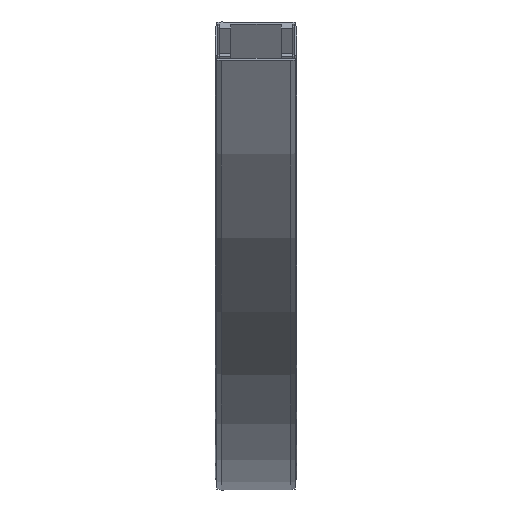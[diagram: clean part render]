
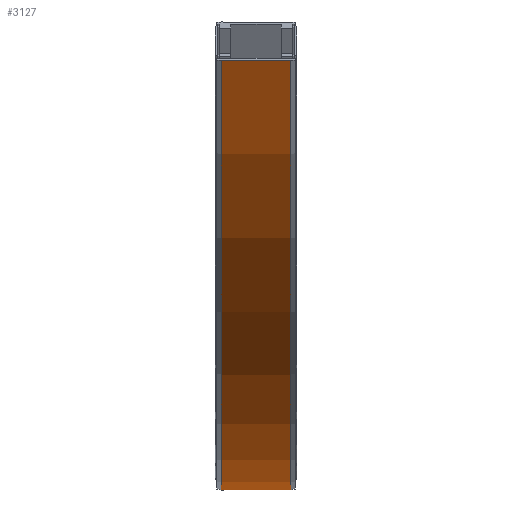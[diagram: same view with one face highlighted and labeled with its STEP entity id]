
A CAD part, top view. The second image highlights one B-rep face of the part: STEP entity #3127.
In plain terms, the highlighted cylindrical face has radius 902.5 mm (diameter 1805 mm), a partial arc.
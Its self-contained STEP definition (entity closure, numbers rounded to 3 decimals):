
#3069=CARTESIAN_POINT('',(-36.5,-11.,0.));
#3070=VERTEX_POINT('',#3069);
#3077=CARTESIAN_POINT('',(-36.5,440.25,781.588));
#3078=VERTEX_POINT('',#3077);
#3079=CARTESIAN_POINT('',(-36.5,891.5,0.));
#3080=DIRECTION('',(1.,0.0,0.0));
#3081=DIRECTION('',(0.0,-0.5,0.866));
#3082=AXIS2_PLACEMENT_3D('',#3079,#3080,#3081);
#3083=CIRCLE('',#3082,902.5);
#3084=EDGE_CURVE('',#3078,#3070,#3083,.T.);
#3096=CARTESIAN_POINT('',(0.,891.5,0.));
#3097=DIRECTION('',(1.0,0.0,0.0));
#3098=DIRECTION('',(0.0,-0.5,0.866));
#3099=AXIS2_PLACEMENT_3D('',#3096,#3097,#3098);
#3100=CYLINDRICAL_SURFACE('',#3099,902.5);
#3101=CARTESIAN_POINT('',(36.5,-11.,0.));
#3102=VERTEX_POINT('',#3101);
#3103=CARTESIAN_POINT('',(-36.5,-11.,0.0));
#3104=DIRECTION('',(1.0,0.0,0.0));
#3105=VECTOR('',#3104,73.);
#3106=LINE('',#3103,#3105);
#3107=EDGE_CURVE('',#3070,#3102,#3106,.T.);
#3108=ORIENTED_EDGE('',*,*,#3107,.T.);
#3109=CARTESIAN_POINT('',(36.5,440.25,781.588));
#3110=VERTEX_POINT('',#3109);
#3111=CARTESIAN_POINT('',(36.5,891.5,0.));
#3112=DIRECTION('',(1.0,0.0,0.0));
#3113=DIRECTION('',(0.0,-0.5,0.866));
#3114=AXIS2_PLACEMENT_3D('',#3111,#3112,#3113);
#3115=CIRCLE('',#3114,902.5);
#3116=EDGE_CURVE('',#3110,#3102,#3115,.T.);
#3117=ORIENTED_EDGE('',*,*,#3116,.F.);
#3118=CARTESIAN_POINT('',(-36.5,440.25,781.588));
#3119=DIRECTION('',(1.0,0.0,0.0));
#3120=VECTOR('',#3119,73.);
#3121=LINE('',#3118,#3120);
#3122=EDGE_CURVE('',#3078,#3110,#3121,.T.);
#3123=ORIENTED_EDGE('',*,*,#3122,.F.);
#3124=ORIENTED_EDGE('',*,*,#3084,.T.);
#3125=EDGE_LOOP('',(#3108,#3117,#3123,#3124));
#3126=FACE_OUTER_BOUND('',#3125,.T.);
#3127=ADVANCED_FACE('',(#3126),#3100,.T.);
